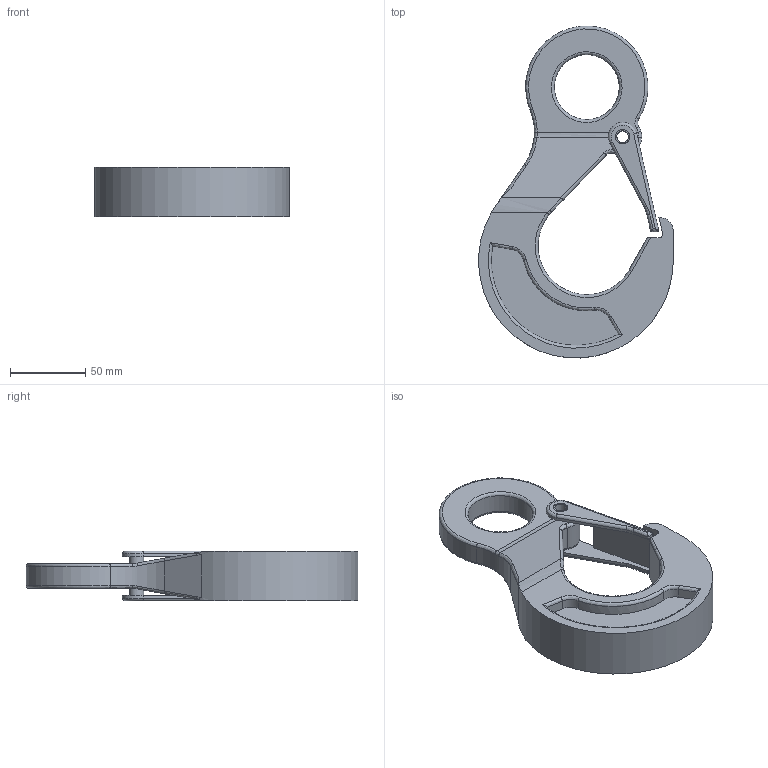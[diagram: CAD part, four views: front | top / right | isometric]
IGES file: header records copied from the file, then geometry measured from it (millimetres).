
Global section: file name: Kranhaken_ohne_Firmenlogo; native system: Autodesk Inventor 2023; preprocessor: unknown; author: MELM; organization: SMS group; date: 20230103.141800; units: millimetre
Bounding box: 128.92 x 219.93 x 33 mm (x, y, z)
Volume: 327159 mm3; surface area: 60139.9 mm2
Topology: 2 solids, 2 shells, 130 faces, 331 edges, 219 vertices
Faces by surface type: bspline 130
